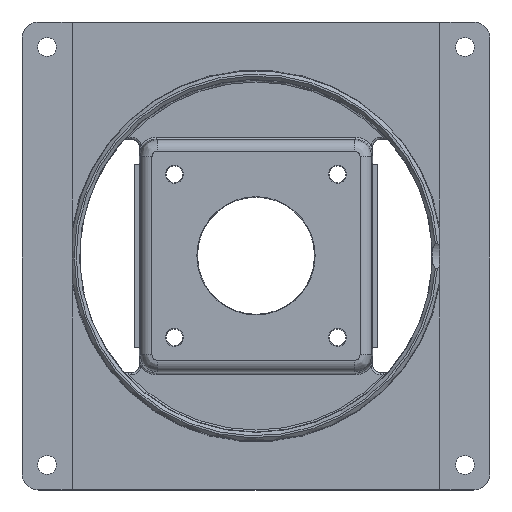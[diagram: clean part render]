
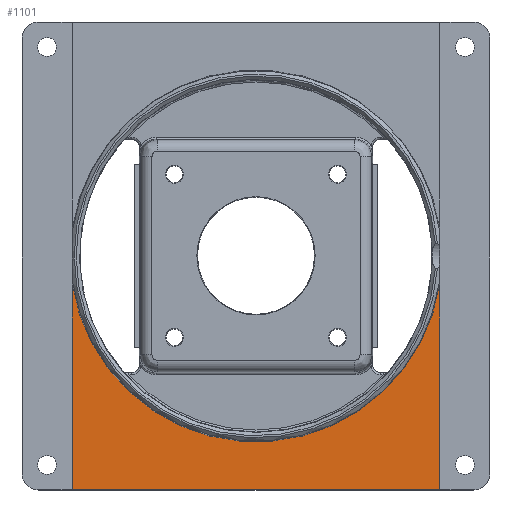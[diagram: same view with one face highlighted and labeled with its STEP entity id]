
A CAD part, top view. The second image highlights one B-rep face of the part: STEP entity #1101.
In plain terms, the highlighted planar face has unit normal (0, 0, 1).
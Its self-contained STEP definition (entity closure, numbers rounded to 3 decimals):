
#312=FACE_OUTER_BOUND('',#1609,.T.);
#518=PLANE('',#4655);
#636=LINE('',#6660,#867);
#682=LINE('',#7256,#913);
#683=LINE('',#7258,#914);
#867=VECTOR('',#5143,1.);
#913=VECTOR('',#5353,1.);
#914=VECTOR('',#5354,1.);
#1101=ADVANCED_FACE('',(#312),#518,.T.);
#1609=EDGE_LOOP('',(#2367,#2368,#2369,#2370));
#1881=CIRCLE('',#4635,35.377);
#2367=ORIENTED_EDGE('',*,*,#3982,.F.);
#2368=ORIENTED_EDGE('',*,*,#3983,.T.);
#2369=ORIENTED_EDGE('',*,*,#3857,.F.);
#2370=ORIENTED_EDGE('',*,*,#3938,.T.);
#3437=VERTEX_POINT('',#6659);
#3438=VERTEX_POINT('',#6661);
#3509=VERTEX_POINT('',#6964);
#3536=VERTEX_POINT('',#7257);
#3857=EDGE_CURVE('',#3437,#3438,#636,.T.);
#3938=EDGE_CURVE('',#3437,#3509,#1881,.T.);
#3982=EDGE_CURVE('',#3536,#3509,#682,.T.);
#3983=EDGE_CURVE('',#3536,#3438,#683,.T.);
#4635=AXIS2_PLACEMENT_3D('',#6965,#5300,#5301);
#4655=AXIS2_PLACEMENT_3D('',#7259,#5355,#5356);
#5143=DIRECTION('',(0.,-1.,0.));
#5300=DIRECTION('',(0.,0.,-1.));
#5301=DIRECTION('',(-1.,0.,0.));
#5353=DIRECTION('',(0.,1.,0.));
#5354=DIRECTION('',(1.,0.,0.));
#5355=DIRECTION('',(0.,0.,1.));
#5356=DIRECTION('',(-1.,0.,0.));
#6659=CARTESIAN_POINT('',(34.977,-5.302,1.018));
#6660=CARTESIAN_POINT('',(34.977,44.539,1.018));
#6661=CARTESIAN_POINT('',(34.977,-44.503,1.018));
#6964=CARTESIAN_POINT('',(-34.977,-5.302,1.018));
#6965=CARTESIAN_POINT('',(0.,0.,1.018));
#7256=CARTESIAN_POINT('',(-34.977,-35.377,1.018));
#7257=CARTESIAN_POINT('',(-34.977,-44.503,1.018));
#7258=CARTESIAN_POINT('',(0.,-44.503,1.018));
#7259=CARTESIAN_POINT('',(-39.767,-39.767,1.018));
